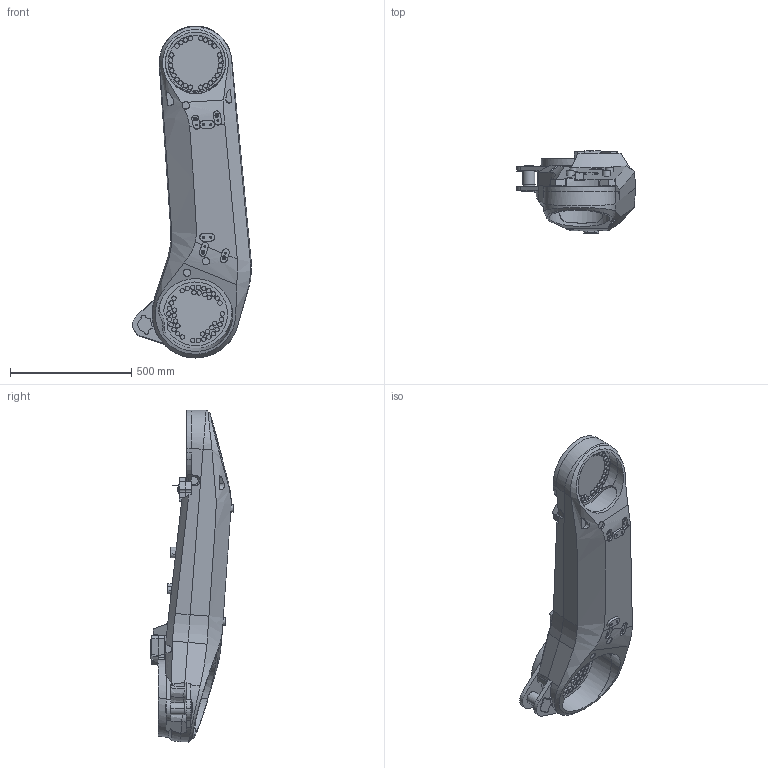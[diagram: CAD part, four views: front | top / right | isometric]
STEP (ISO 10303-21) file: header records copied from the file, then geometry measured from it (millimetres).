
FILE_DESCRIPTION (( 'STEP AP214' ), '1' );
FILE_NAME ('IRB6720-LID_215kg-250_OC_00_LINK02_CAD.step', '2026-05-26T07:18:18', ( '' ), ( '' ), 'SwSTEP 2.0', 'SolidWorks 2024', '' );
FILE_SCHEMA (( 'AUTOMOTIVE_DESIGN' ));
Length unit declared in the file: millimetre
Products named in the file (1): IRB6720-LID_215kg-250_OC_00_LINK02_CAD
Bounding box: 489.99 x 339 x 1368.43 mm (x, y, z)
Volume: 60273233.8 mm3; surface area: 1769338.3 mm2
Topology: 1 solids, 1 shells, 783 faces, 1897 edges, 1206 vertices
Faces by surface type: plane 324, cylinder 271, bspline 104, cone 74, torus 10
Entity records: 72479 total; most frequent: CARTESIAN_POINT 46489, ORIENTED_EDGE 3726, DIRECTION 3301, EDGE_CURVE 1863, AXIS2_PLACEMENT_3D 1232, VERTEX_POINT 1206, EDGE_LOOP 909, VECTOR 837
